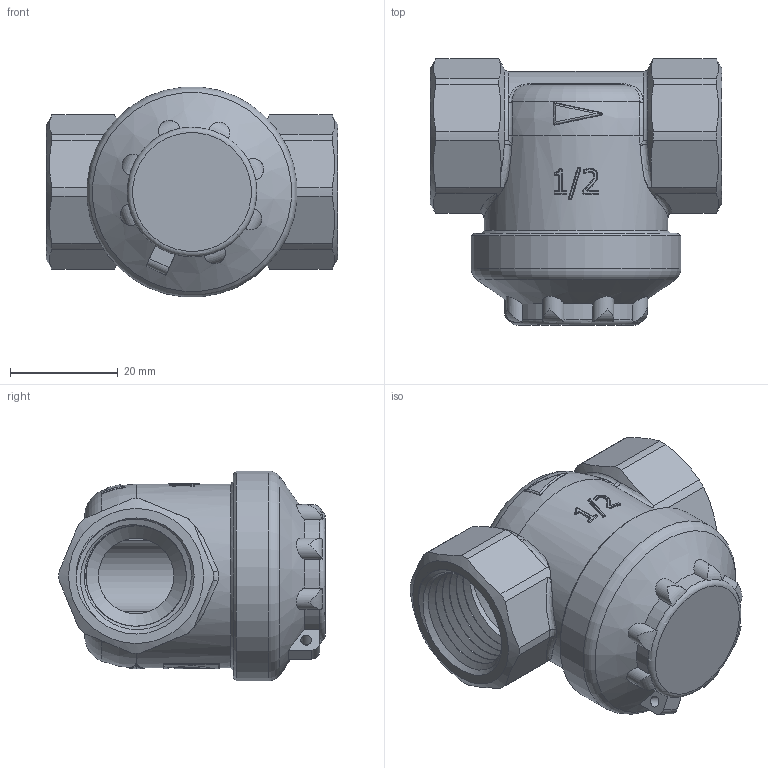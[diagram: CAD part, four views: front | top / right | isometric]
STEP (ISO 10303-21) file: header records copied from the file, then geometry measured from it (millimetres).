
FILE_DESCRIPTION(/* description */ (''),/* implementation_level */ '2;1');
FILE_NAME(/* name */ 'H:\Мишенин_3D\Для каталога DWG\Фильтры\VT.384.N.04_1.stp',/* time_stamp */ '2019-02-25T13:12:42+03:00',/* author */ ('MisheninAL'),/* organization */ (''),/* preprocessor_version */ 'ST-DEVELOPER v17',/* originating_system */ 'Autodesk Inventor 2019',/* authorisation */ '');
FILE_SCHEMA (('AUTOMOTIVE_DESIGN { 1 0 10303 214 3 1 1 }'));
Products named in the file (1): VT.384.N.04_1
Bounding box: 54 x 49.3 x 38.87 mm (x, y, z)
Volume: 27116 mm3; surface area: 20223.2 mm2
Topology: 2 solids, 2 shells, 538 faces, 1405 edges, 878 vertices
Faces by surface type: cylinder 191, bspline 165, plane 89, torus 59, cone 17, sphere 17
Full cylindrical faces by diameter (mm): 2 x1, 4.98 x1, 5 x1, 7 x1, 11 x1, 13 x1, 14 x1, 15 x1, 16 x1, 18.6 x10, 19 x1, 22.2 x12, 29 x1, 30.5 x1, 32 x2, 34 x1, 34.5 x1, 34.98 x8, 35 x3, 36 x1, 36.02 x9, 39 x1
Entity records: 34722 total; most frequent: CARTESIAN_POINT 22721, ORIENTED_EDGE 2812, DIRECTION 2089, EDGE_CURVE 1406, AXIS2_PLACEMENT_3D 889, VERTEX_POINT 879, EDGE_LOOP 559, B_SPLINE_CURVE_WITH_KNOTS 549
